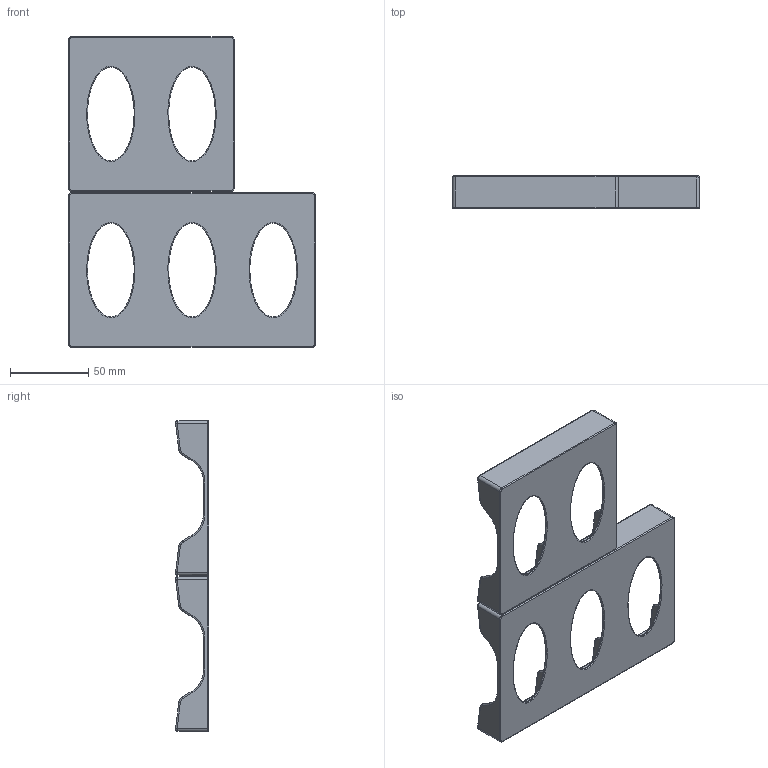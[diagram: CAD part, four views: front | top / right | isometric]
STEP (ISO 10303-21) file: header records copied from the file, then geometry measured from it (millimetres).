
FILE_DESCRIPTION(/* description */ (''),/* implementation_level */ '2;1');
FILE_NAME(/* name */ 'D:/3D Objects/Thingiverse/Kartenhalter/Kartenhalter2x3x.step',/* time_stamp */ '2020-06-14T08:43:37+02:00',/* author */ (''),/* organization */ (''),/* preprocessor_version */ 'ST-DEVELOPER v18.1',/* originating_system */ 'Autodesk Translation Framework v9.3.0.1241',/* authorisation */ '');
FILE_SCHEMA (('AUTOMOTIVE_DESIGN { 1 0 10303 214 3 1 1 }'));
Length unit declared in the file: millimetre
Products named in the file (1): Kartenhalter
Bounding box: 158 x 21.27 x 199 mm (x, y, z)
Volume: 60919.9 mm3; surface area: 72486.3 mm2
Topology: 2 solids, 2 shells, 298 faces, 680 edges, 386 vertices
Faces by surface type: cylinder 140, plane 59, bspline 43, torus 36, sphere 20
Entity records: 11027 total; most frequent: CARTESIAN_POINT 4204, DIRECTION 1554, ORIENTED_EDGE 1360, EDGE_CURVE 680, AXIS2_PLACEMENT_3D 638, VERTEX_POINT 386, CIRCLE 326, EDGE_LOOP 308
